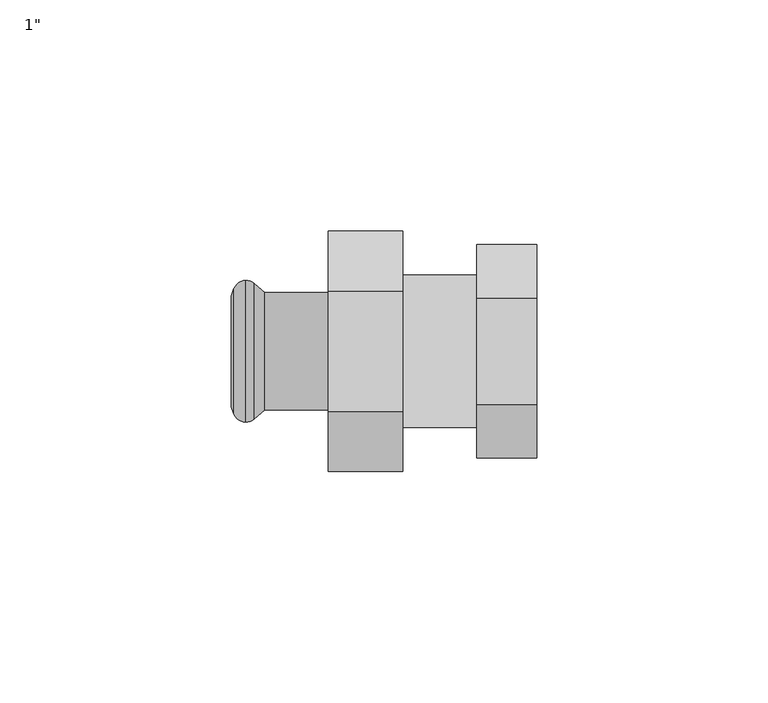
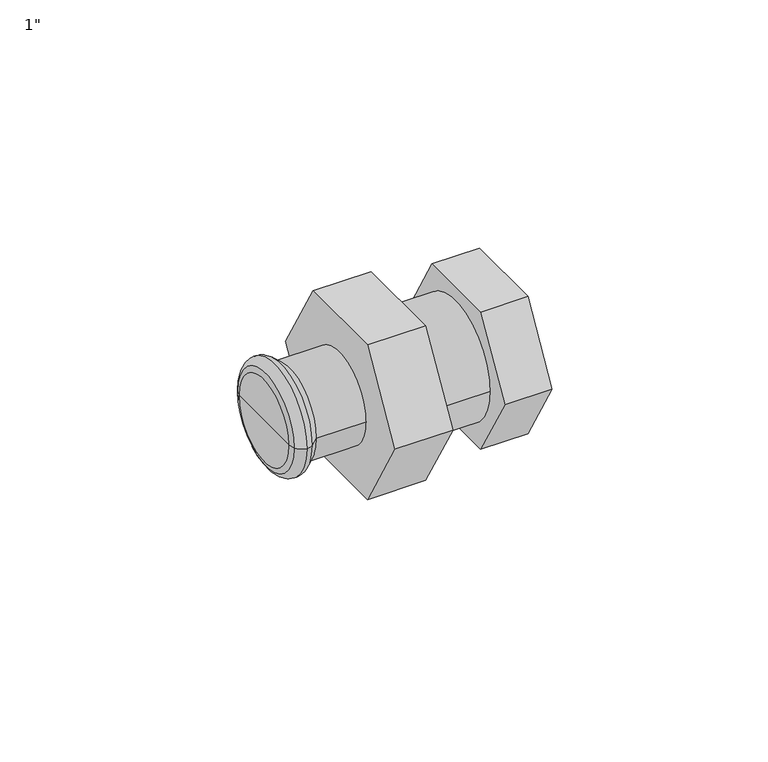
"""IFC4 building model written with IfcOpenShell, lengths in millimetres: pipe fitting geometry."""

from ifc_helpers import new_model, si_unit, point, frame, origin, origin_2d, place, context, project, spatial, polyline, circle_curve, ellipse_curve, trimmed, segment, composite_curve, outline, extrude, source, transform, mapped, element, save
from ifc_brep_helpers import plane_surface, cylinder_surface, revolved_surface, advanced_brep


def pipe_fitting_0150fbcf(model_context):
    return source(origin(), model_context, "Body", "SolidModel", [
        extrude(outline(polyline([(-23.0940108, 0.0), (-11.5470054, 20.0), (11.5470054, 20.0), (23.0940108, 0.0), (11.5470054, -20.0), (-11.5470054, -20.0), (-23.0940108, 0.0)])), frame((32.0, 0.0, 0.0), z_axis=(1.0, 0.0, 0.0), x_axis=(0.0, 1.0, 0.0)), (0.0, 0.0, 1.0), 13.0),
        extrude(outline(composite_curve([segment(trimmed(circle_curve(origin_2d(), 16.5), [point((-16.5, 0.0))], [point((16.5, 0.0))], False, "CARTESIAN"), True, "CONTINUOUS"), segment(trimmed(circle_curve(origin_2d(), 16.5), [point((16.5, 0.0))], [point((-16.5, 0.0))], False, "CARTESIAN"), True, "CONTINUOUS")], self_intersect=False)), frame((16.0, 0.0, 0.0), z_axis=(1.0, 0.0, 0.0), x_axis=(0.0, 1.0, 0.0)), (0.0, 0.0, 1.0), 16.0),
        extrude(outline(polyline([(-25.9807621, 0.0), (-12.9903811, 22.5), (12.9903811, 22.5), (25.9807621, 0.0), (12.9903811, -22.5), (-12.9903811, -22.5), (-25.9807621, 0.0)])), frame((0.0, 0.0, 0.0), z_axis=(1.0, 0.0, 0.0), x_axis=(0.0, 1.0, 0.0)), (0.0, 0.0, 1.0), 16.0),
        advanced_brep(
        [(-13.7838092, -12.7, 0.0), (-13.7838092, 12.7, 0.0), (0.0, 12.7, 0.0), (0.0, -12.7, 0.0), (-16.0922627, -14.6370225, 0.0), (-16.0922627, 14.6370225, 0.0), (-17.8921278, -15.325, 0.0), (-17.8921278, 15.325, 0.0), (-20.432052, -13.5484544, 0.0), (-20.432052, 13.5484544, 0.0), (-21.0, -11.9880302, 0.0), (-21.0, 11.9880302, 0.0), (-21.0, 0.0, 0.0), (0.0, 0.0, 0.0)],
        [
            (0, 1, circle_curve(frame((-13.7838092, 0.0, 0.0), z_axis=(1.0, 0.0, 0.0), x_axis=(0.0, 1.0, 0.0)), 12.7)),
            (1, 2),
            (2, 3, circle_curve(frame((0.0, 0.0, 0.0), z_axis=(-1.0, 0.0, 0.0), x_axis=(0.0, 1.0, 0.0)), 12.7)),
            (3, 0),
            (1, 0, circle_curve(frame((-13.7838092, 0.0, 0.0), z_axis=(1.0, 0.0, 0.0), x_axis=(0.0, 1.0, 0.0)), 12.7)),
            (3, 2, circle_curve(frame((0.0, 0.0, 0.0), z_axis=(-1.0, 0.0, 0.0), x_axis=(0.0, 1.0, 0.0)), 12.7)),
            (4, 5, circle_curve(frame((-16.0922627, 0.0, 0.0), z_axis=(1.0, 0.0, 0.0), x_axis=(0.0, 1.0, 0.0)), 14.6370225)),
            (5, 1),
            (0, 4),
            (5, 4, circle_curve(frame((-16.0922627, 0.0, 0.0), z_axis=(1.0, 0.0, 0.0), x_axis=(0.0, 1.0, 0.0)), 14.6370225)),
            (6, 7, circle_curve(frame((-17.8921278, 0.0, 0.0), z_axis=(1.0, 0.0, 0.0), x_axis=(0.0, 1.0, 0.0)), 15.325)),
            (7, 5, circle_curve(frame((-17.8935049, 12.6230333, 0.0), z_axis=(0.0, 0.0, -1.0), x_axis=(1.0, 0.0, 0.0)), 2.701967)),
            (4, 6, circle_curve(frame((-17.8935049, -12.6230333, 0.0), z_axis=(0.0, 0.0, -1.0), x_axis=(1.0, 0.0, 0.0)), 2.701967)),
            (7, 6, circle_curve(frame((-17.8921278, 0.0, 0.0), z_axis=(1.0, 0.0, 0.0), x_axis=(0.0, 1.0, 0.0)), 15.325)),
            (8, 9, circle_curve(frame((-20.432052, 0.0, 0.0), z_axis=(1.0, 0.0, 0.0), x_axis=(0.0, 1.0, 0.0)), 13.5484544)),
            (9, 7, circle_curve(frame((-17.89488, 12.6249993, 0.0), z_axis=(0.0, 0.0, -1.0), x_axis=(1.0, 0.0, 0.0)), 2.7000021)),
            (6, 8, circle_curve(frame((-17.89488, -12.6249993, 0.0), z_axis=(0.0, 0.0, -1.0), x_axis=(1.0, 0.0, 0.0)), 2.7000021)),
            (9, 8, circle_curve(frame((-20.432052, 0.0, 0.0), z_axis=(1.0, 0.0, 0.0), x_axis=(0.0, 1.0, 0.0)), 13.5484544)),
            (10, 11, circle_curve(frame((-21.0, 0.0, 0.0), z_axis=(1.0, 0.0, 0.0), x_axis=(0.0, 1.0, 0.0)), 11.9880302)),
            (11, 9),
            (8, 10),
            (11, 10, circle_curve(frame((-21.0, 0.0, 0.0), z_axis=(1.0, 0.0, 0.0), x_axis=(0.0, 1.0, 0.0)), 11.9880302)),
            (12, 11),
            (10, 12),
            (2, 13),
            (13, 3),
        ],
        [
            cylinder_surface(frame((1358.742668, 0.0, 0.0), z_axis=(-1.0, 0.0, 0.0), x_axis=(0.0, 1.0, 0.0)), 12.7),
            revolved_surface(polyline([(-13.7838092, 12.7, 0.0), (-16.0922627, 14.6370225, 0.0)]), (1358.742668, 0.0, 0.0), (-1.0, 0.0, 0.0)),
            revolved_surface(trimmed(ellipse_curve(frame((-17.8935049, 12.6230333, 0.0), z_axis=(0.0, 0.0, 1.0), x_axis=(1.0, 0.0, 0.0)), 2.701967, 2.701967), [point((-16.0922627, 14.6370225, 0.0))], [point((-17.8921278, 15.325, 0.0))], True, "CARTESIAN"), (1358.742668, 0.0, 0.0), (-1.0, 0.0, 0.0)),
            revolved_surface(trimmed(ellipse_curve(frame((-17.89488, 12.6249993, 0.0), z_axis=(0.0, 0.0, 1.0), x_axis=(1.0, 0.0, 0.0)), 2.7000021, 2.7000021), [point((-17.8921278, 15.325, 0.0))], [point((-20.432052, 13.5484544, 0.0))], True, "CARTESIAN"), (1358.742668, 0.0, 0.0), (-1.0, 0.0, 0.0)),
            revolved_surface(polyline([(-20.432052, 13.5484544, 0.0), (-21.0, 11.9880302, 0.0)]), (1358.742668, 0.0, 0.0), (-1.0, 0.0, 0.0)),
            plane_surface(frame((-21.0, 0.0, 0.0), z_axis=(-1.0, 0.0, 0.0), x_axis=(0.0, 1.0, 0.0))),
            plane_surface(frame((0.0, 0.0, 0.0), z_axis=(1.0, 0.0, 0.0), x_axis=(0.0, 1.0, 0.0))),
        ],
        [
            (0, [[1, 2, 3, 4]]),
            (0, [[5, -4, 6, -2]]),
            (1, [[7, 8, -1, 9]]),
            (1, [[10, -9, -5, -8]]),
            (2, [[11, 12, -7, 13]]),
            (2, [[14, -13, -10, -12]]),
            (3, [[15, 16, -11, 17]]),
            (3, [[18, -17, -14, -16]]),
            (4, [[19, 20, -15, 21]]),
            (4, [[22, -21, -18, -20]]),
            (5, [[23, -19, 24]]),
            (5, [[-24, -22, -23]]),
            (6, [[-3, 25, 26]]),
            (6, [[-6, -26, -25]]),
        ],
    ),
    ])


if __name__ == "__main__":
    model = new_model("IFC4")
    model_context = context("Model", 3, world=origin())
    ifc_project = project(units=[si_unit("LENGTHUNIT", "METRE", prefix="MILLI")], contexts=[model_context])
    site = spatial("IfcSite", under=ifc_project)
    building = spatial("IfcBuilding", under=site)
    placement = place(None, origin())
    pipe_fitting_shape = pipe_fitting_0150fbcf(model_context)
    element("IfcPipeFitting", 1, ObjectType="KAN-therm Inox śrubunek GW : 1\"", at=placement, inside=building, context=model_context, shape_type="MappedRepresentation", body=[
        mapped(pipe_fitting_shape, transform((0.0, 0.0, 0.0), x_axis=(1.0, 0.0, 0.0), y_axis=(0.0, 1.0, 0.0), z_axis=(0.0, 0.0, 1.0))),
    ])
    save(model, "model.ifc")
